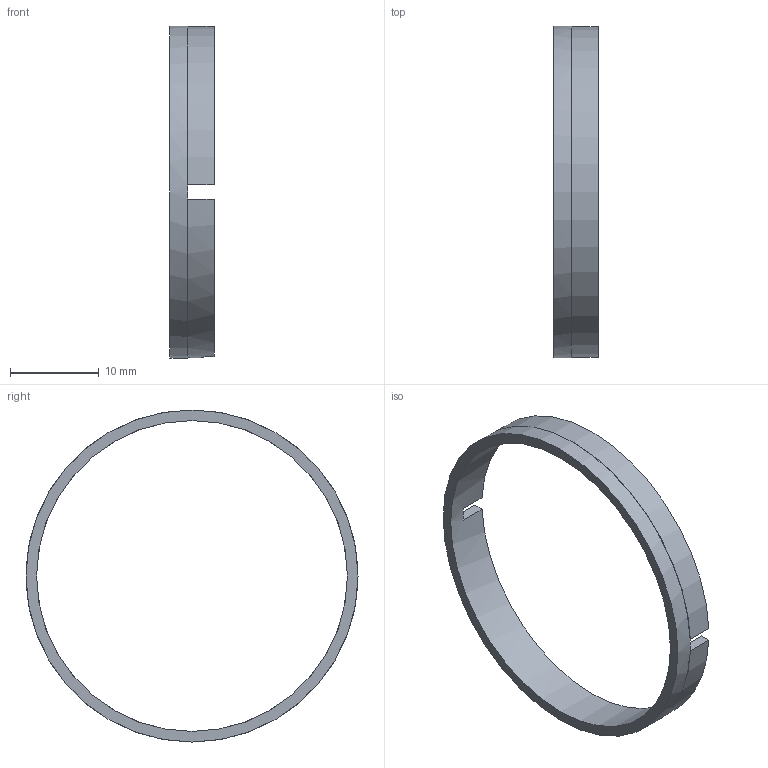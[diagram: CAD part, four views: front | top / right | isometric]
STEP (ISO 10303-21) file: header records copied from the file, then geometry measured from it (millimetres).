
FILE_DESCRIPTION(('SkyG Speed 90 - revision C6-9 - 2026-10-07','N0MD-dome-ring'),'2;1');
FILE_NAME('N0MD-dome-ring_C6-9','2026-10-07T14:03:25',('Author'),( 'Open CASCADE'),'Open CASCADE STEP processor 7.9','Open CASCADE 7.9' ,'Unknown');
FILE_SCHEMA(('AUTOMOTIVE_DESIGN { 1 0 10303 214 1 1 1 1 }'));
Length unit declared in the file: millimetre
Products named in the file (1): N0MD-dome-ring C6-9
Bounding box: 5 x 37.5 x 37.5 mm (x, y, z)
Volume: 654.9 mm3; surface area: 1407 mm2
Topology: 1 solids, 1 shells, 19 faces, 54 edges, 36 vertices
Faces by surface type: plane 14, cylinder 4, bspline 1
Full cylindrical faces by diameter (mm): 35.1 x1, 37.5 x1
Entity records: 1336 total; most frequent: CARTESIAN_POINT 344, DIRECTION 156, ORIENTED_EDGE 108, PCURVE 108, DEFINITIONAL_REPRESENTATION 108, B_SPLINE_CURVE_WITH_KNOTS 63, LINE 57, VECTOR 57
